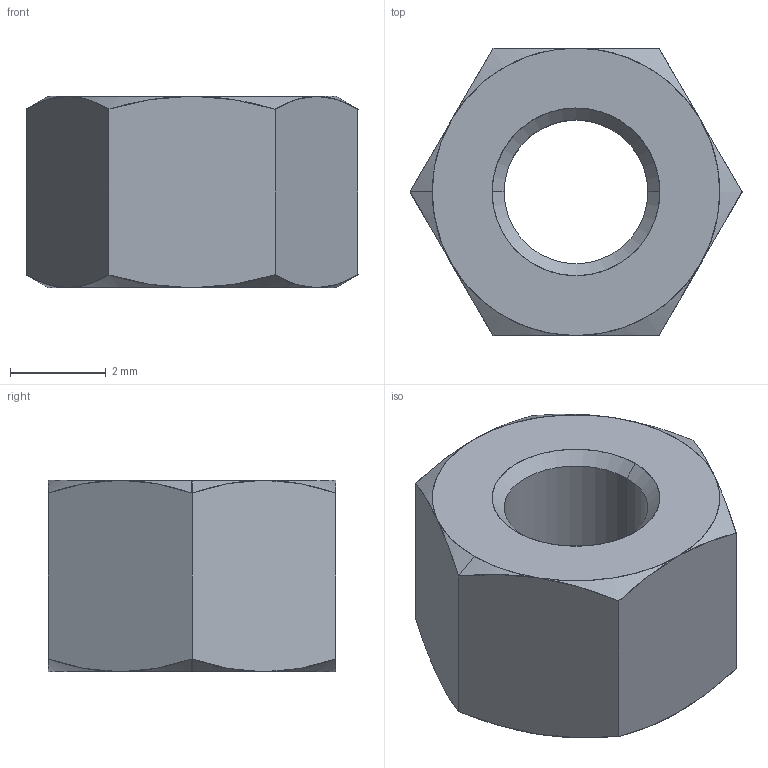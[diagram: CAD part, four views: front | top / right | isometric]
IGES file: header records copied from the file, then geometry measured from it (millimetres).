
Start section: SolidWorks IGES file using analytic representation for surfaces
Global section: file name: C:\Users\ianosborn\Desktop\N0503.NP_v2\N0503.NP_v2_20250227_IGES\N0503.030-004-NP.igs; native system: SolidWorks 2019; preprocessor: SolidWorks 2019; author: IanOsborn; date: 250227.144023; units: millimetre
Bounding box: 6.93 x 6 x 4 mm (x, y, z)
Surface area: 163.5 mm2 (no closed solid volume)
Topology: 0 solids, 0 shells, 28 faces, 286 edges, 286 vertices
Faces by surface type: revolution 20, bspline 8
